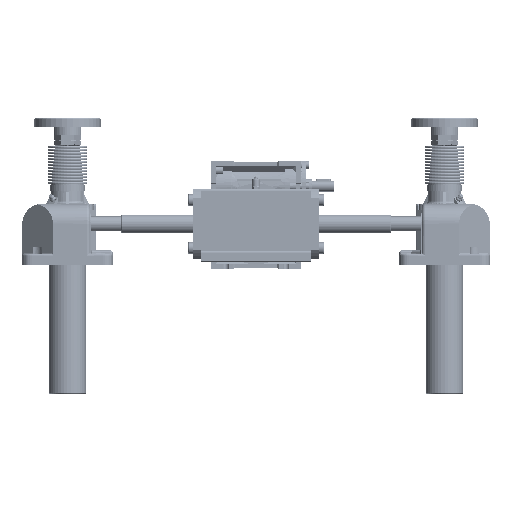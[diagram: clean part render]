
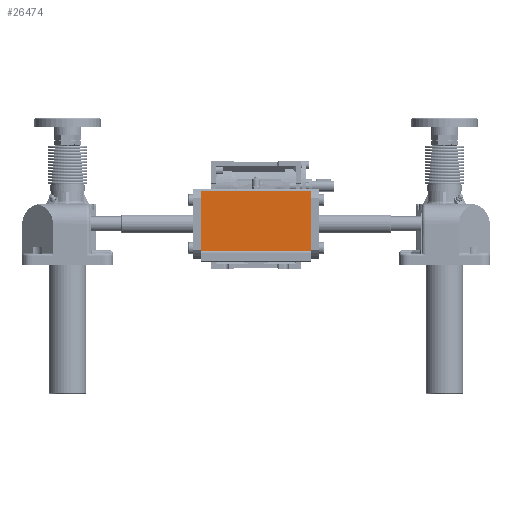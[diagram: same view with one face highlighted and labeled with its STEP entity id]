
A CAD part, front view. The second image highlights one B-rep face of the part: STEP entity #26474.
In plain terms, the highlighted planar face has unit normal (0, -1, 0) as drawn and (0, 1, 0) by its records, which use the part's own axes.
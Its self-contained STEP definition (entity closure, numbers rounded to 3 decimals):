
#26474=ADVANCED_FACE('',(#57465),#57466,.F.);
#57465=FACE_OUTER_BOUND('',#111384,.T.);
#57466=PLANE('',#111385);
#111384=EDGE_LOOP('',(#230185,#230186,#230187,#230188));
#111385=AXIS2_PLACEMENT_3D('',#230189,#230190,#230191);
#230185=ORIENTED_EDGE('',*,*,#301180,.T.);
#230186=ORIENTED_EDGE('',*,*,#301219,.F.);
#230187=ORIENTED_EDGE('',*,*,#301246,.T.);
#230188=ORIENTED_EDGE('',*,*,#301247,.T.);
#230189=CARTESIAN_POINT('',(0.,47.0,96.5));
#230190=DIRECTION('',(0.0,-1.0,0.0));
#230191=DIRECTION('',(0.0,0.0,-1.0));
#301180=EDGE_CURVE('',#389288,#389286,#389289,.T.);
#301219=EDGE_CURVE('',#389359,#389286,#389361,.T.);
#301246=EDGE_CURVE('',#389359,#389407,#389408,.T.);
#301247=EDGE_CURVE('',#389407,#389288,#389409,.T.);
#389286=VERTEX_POINT('',#550574);
#389288=VERTEX_POINT('',#550576);
#389289=LINE('',#550577,#550578);
#389359=VERTEX_POINT('',#550674);
#389361=LINE('',#550676,#550677);
#389407=VERTEX_POINT('',#550738);
#389408=LINE('',#550739,#550740);
#389409=LINE('',#550741,#550742);
#550574=CARTESIAN_POINT('',(-73.0,47.0,14.0));
#550576=CARTESIAN_POINT('',(73.0,47.0,14.0));
#550577=CARTESIAN_POINT('',(0.0,47.0,14.0));
#550578=VECTOR('',#631926,1.0);
#550674=CARTESIAN_POINT('',(-73.0,47.0,93.5));
#550676=CARTESIAN_POINT('',(-73.0,47.0,53.75));
#550677=VECTOR('',#631989,1.0);
#550738=CARTESIAN_POINT('',(73.0,47.0,93.5));
#550739=CARTESIAN_POINT('',(0.,47.0,93.5));
#550740=VECTOR('',#632038,1.0);
#550741=CARTESIAN_POINT('',(73.0,47.0,53.75));
#550742=VECTOR('',#632039,1.0);
#631926=DIRECTION('',(-1.0,0.0,0.));
#631989=DIRECTION('',(0.,0.0,-1.0));
#632038=DIRECTION('',(1.0,0.0,0.));
#632039=DIRECTION('',(0.,0.0,-1.0));
